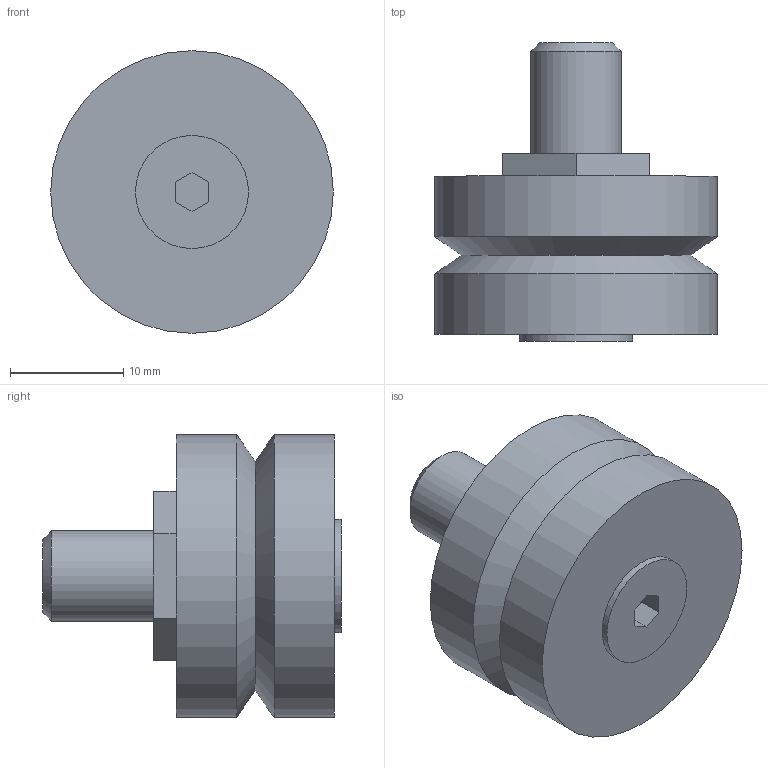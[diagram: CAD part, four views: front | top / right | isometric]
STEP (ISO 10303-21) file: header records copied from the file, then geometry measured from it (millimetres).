
FILE_DESCRIPTION( ( 'STEP AP203' ), '1' );
FILE_NAME( 'p:/temp/worker_235/temp/exporttempdir_1068_72_3MvAo/format_0/RBHJ25C.stp', '2022-06-02T04:30:40', ( 'License CC BY-ND 4.0' ), ( 'CADENAS' ), ' ', 'PARTsolutions', ' ' );
FILE_SCHEMA( ( 'CONFIG_CONTROL_DESIGN' ) );
Length unit declared in the file: millimetre
Products named in the file (1): _RBHJ25C
Bounding box: 25 x 26.4 x 25 mm (x, y, z)
Volume: 7378.4 mm3; surface area: 2616.5 mm2
Topology: 1 solids, 1 shells, 25 faces, 54 edges, 35 vertices
Faces by surface type: plane 18, cylinder 4, cone 3
Full cylindrical faces by diameter (mm): 8 x1, 10 x1, 25 x2
Entity records: 674 total; most frequent: DIRECTION 108, CARTESIAN_POINT 106, ORIENTED_EDGE 92, EDGE_CURVE 46, AXIS2_PLACEMENT_3D 36, EDGE_LOOP 36, LINE 36, VECTOR 36
